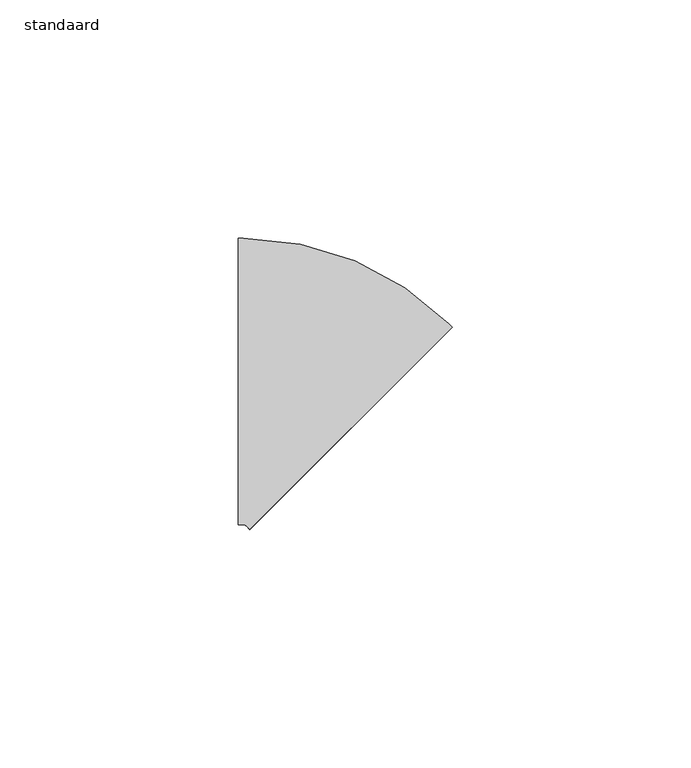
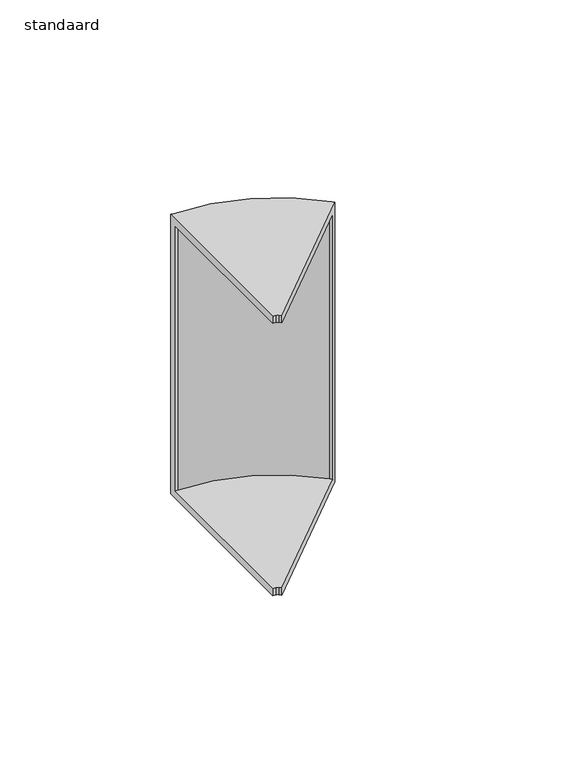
"""IFC4 building model written with IfcOpenShell, lengths in millimetres: cable carrier fitting geometry, AI_Raccord cdc_Coude montant : standaard."""

import ifcopenshell
import ifcopenshell.guid

model = None  # the IFC model being written
_history = None  # IfcOwnerHistory: only IFC2X3 demands one
_inside = {}  # id of a spatial element -> (the spatial element, [elements in it])
_under = {}  # id of a project, library or spatial element -> (it, [spatial elements below it])
_declared = {}  # id of a project -> (the project, [libraries it declares])
_typed = {}  # id of a type object -> (the type object, [elements of that type])
_made_of = {}  # id of a material, layer set ... -> (it, [elements and type objects made of it])


def new_model(schema):
    """Start an empty IFC model of exactly this schema.

    Asked for "IFC4X3", IfcOpenShell would pick the latest addendum, in which some entities
    have other attributes; the version numbers below select the first issue.
    IFC2X3 requires an IfcOwnerHistory on every rooted entity: one is made here for all.
    """
    global model, _history
    if schema == "IFC4X3":
        model = ifcopenshell.file(schema_version=(4, 3, 0, 0))
    else:
        model = ifcopenshell.file(schema=schema)
    _inside.clear()
    _under.clear()
    _declared.clear()
    _typed.clear()
    _made_of.clear()
    _history = None
    if model.schema == "IFC2X3":
        org = make("IfcOrganization", Name="unknown")
        user = make(
            "IfcPersonAndOrganization",
            ThePerson=make("IfcPerson", FamilyName="unknown"),
            TheOrganization=org,
        )
        app = make(
            "IfcApplication",
            ApplicationDeveloper=org,
            Version="unknown",
            ApplicationFullName="unknown",
            ApplicationIdentifier="unknown",
        )
        _history = make(
            "IfcOwnerHistory",
            OwningUser=user,
            OwningApplication=app,
            ChangeAction="ADDED",
            CreationDate=0,
        )
    return model


def make(cls, **values):
    """One entity of the class cls with the attributes given. An attribute that is None is left unset."""
    return model.create_entity(
        cls, **{name: value for name, value in values.items() if value is not None}
    )


def rooted(cls, **values):
    """An entity with a GlobalId (a new one), such as an element, a storey or a relation."""
    return make(cls, GlobalId=ifcopenshell.guid.new(), OwnerHistory=_history, **values)


def si_unit(unit_type, name, prefix=None):
    """IfcSIUnit, for example si_unit("LENGTHUNIT", "METRE", prefix="MILLI")."""
    return make("IfcSIUnit", UnitType=unit_type, Prefix=prefix, Name=name)


def assignment(units):
    """IfcUnitAssignment: the units of a project."""
    return None if units is None else make("IfcUnitAssignment", Units=units)


def point(xyz):
    """IfcCartesianPoint."""
    return None if xyz is None else make("IfcCartesianPoint", Coordinates=xyz)


def direction(xyz):
    """IfcDirection."""
    return None if xyz is None else make("IfcDirection", DirectionRatios=xyz)


def frame(location, z_axis=None, x_axis=None):
    """IfcAxis2Placement3D, a coordinate frame: its origin and axes. An axis left out is left unset."""
    return make(
        "IfcAxis2Placement3D",
        Location=point(location),
        Axis=direction(z_axis),
        RefDirection=direction(x_axis),
    )


def origin():
    """The frame at (0, 0, 0) with its axes left unset."""
    return frame((0.0, 0.0, 0.0))


def place(relative_to, where):
    """IfcLocalPlacement: puts the frame where relative to a parent placement (None: the world)."""
    return make(
        "IfcLocalPlacement", PlacementRelTo=relative_to, RelativePlacement=where
    )


def context(
    kind, dimensions, precision=None, world=None, true_north=None, identifier=None
):
    """IfcGeometricRepresentationContext, for example the 3D "Model" context."""
    return make(
        "IfcGeometricRepresentationContext",
        ContextIdentifier=identifier,
        ContextType=kind,
        CoordinateSpaceDimension=dimensions,
        Precision=precision,
        WorldCoordinateSystem=world,
        TrueNorth=true_north,
    )


def project(units=None, contexts=None):
    """IfcProject with its units and contexts."""
    return rooted(
        "IfcProject",
        Name="project",
        RepresentationContexts=contexts,
        UnitsInContext=assignment(units),
    )


def spatial(cls, under=None, at=None, **own):
    """A site, building, storey or space (cls), placed at a placement, below another one or the project."""
    s = rooted(cls, ObjectPlacement=at, **own)
    if under is not None:
        _under.setdefault(under.id(), (under, []))[1].append(s)
    return s


def polyline(points):
    """IfcPolyline through the points."""
    return make("IfcPolyline", Points=[point(p) for p in points])


def circle_curve(where, radius):
    """IfcCircle in the frame where."""
    return make("IfcCircle", Position=where, Radius=radius)


def shape(context_of_items, identifier, shape_type, items):
    """IfcShapeRepresentation: the items that make up one representation, for example the "Body"."""
    return make(
        "IfcShapeRepresentation",
        ContextOfItems=context_of_items,
        RepresentationIdentifier=identifier,
        RepresentationType=shape_type,
        Items=items,
    )


def source(mapping_origin, context_of_items, identifier, shape_type, items):
    """IfcRepresentationMap: a shape defined once, which mapped items show again and again."""
    return make(
        "IfcRepresentationMap",
        MappingOrigin=mapping_origin,
        MappedRepresentation=shape(context_of_items, identifier, shape_type, items),
    )


def transform(
    local_origin,
    x_axis=None,
    y_axis=None,
    z_axis=None,
    scale=None,
    scale2=None,
    scale3=None,
    uniform=True,
):
    """IfcCartesianTransformationOperator3D, or its non-uniform kind. x_axis, y_axis, z_axis: its Axis1, 2, 3."""
    if uniform:
        return make(
            "IfcCartesianTransformationOperator3D",
            Axis1=direction(x_axis),
            Axis2=direction(y_axis),
            LocalOrigin=point(local_origin),
            Scale=scale,
            Axis3=direction(z_axis),
        )
    return make(
        "IfcCartesianTransformationOperator3DnonUniform",
        Axis1=direction(x_axis),
        Axis2=direction(y_axis),
        LocalOrigin=point(local_origin),
        Scale=scale,
        Axis3=direction(z_axis),
        Scale2=scale2,
        Scale3=scale3,
    )


def mapped(mapping_source, mapping_target):
    """IfcMappedItem: shows the shape of a source again, moved by a transform."""
    return make(
        "IfcMappedItem", MappingSource=mapping_source, MappingTarget=mapping_target
    )


def made_of(thing, what):
    """Note that an element or type object is made of a material, layer set ...; save() writes the relation."""
    if what is not None:
        _made_of.setdefault(what.id(), (what, []))[1].append(thing)
    return thing


def element(
    cls,
    number,
    at=None,
    inside=None,
    cuts=None,
    type_object=None,
    material=None,
    context=None,
    identifier="Body",
    shape_type=None,
    held_by="IfcProductDefinitionShape",
    body=None,
    shapes=None,
    **own,
):
    """One element of the class cls, such as IfcWall. Its Tag is "e" and its number.

    at: its placement. inside: the storey or other place that contains it. cuts: it is an
    opening in that element (IfcRelVoidsElement). A single representation is given by context,
    identifier, shape_type and body (its items); several are given by shapes. held_by: the class
    of the entity that holds the representations. save() writes the other relations.
    """
    e = rooted(cls, Tag="e%d" % number, ObjectPlacement=at, **own)
    if body is not None:
        shapes = [shape(context, identifier, shape_type, body)]
    if shapes is not None:
        e.Representation = make(held_by, Representations=shapes)
    if inside is not None:
        _inside.setdefault(inside.id(), (inside, []))[1].append(e)
    if cuts is not None:
        rooted(
            "IfcRelVoidsElement", RelatingBuildingElement=cuts, RelatedOpeningElement=e
        )
    if type_object is not None:
        _typed.setdefault(type_object.id(), (type_object, []))[1].append(e)
    return made_of(e, material)


def aggregate(whole, parts):
    """IfcRelAggregates: a whole, such as a stair, and the parts it consists of."""
    return rooted("IfcRelAggregates", RelatingObject=whole, RelatedObjects=parts)


def save(model, path):
    """Write the relations noted so far, then the file.

    IfcRelAggregates (storeys below a building ...), IfcRelContainedInSpatialStructure (elements
    in a storey), IfcRelDefinesByType, IfcRelAssociatesMaterial and IfcRelDeclares: one each for
    every whole, place, type object, material and project.
    """
    for whole, parts in _under.values():
        aggregate(whole, parts)
    for where, things in _inside.values():
        rooted(
            "IfcRelContainedInSpatialStructure",
            RelatedElements=things,
            RelatingStructure=where,
        )
    for kind, things in _typed.values():
        rooted("IfcRelDefinesByType", RelatedObjects=things, RelatingType=kind)
    for what, things in _made_of.values():
        rooted("IfcRelAssociatesMaterial", RelatedObjects=things, RelatingMaterial=what)
    for by, libraries in _declared.values():
        rooted("IfcRelDeclares", RelatingContext=by, RelatedDefinitions=libraries)
    model.write(path)


def plane_surface(at):
    """IfcPlane: the flat surface through the origin of the frame at, square to its z axis."""
    return make("IfcPlane", Position=at)


def cylinder_surface(at, radius):
    """IfcCylindricalSurface: all points at the distance radius from the z axis of the frame at."""
    return make("IfcCylindricalSurface", Position=at, Radius=radius)


def revolved_surface(curve, axis_point, axis_direction):
    """IfcSurfaceOfRevolution: the curve turned about the line through axis_point along axis_direction."""
    return make(
        "IfcSurfaceOfRevolution",
        SweptCurve=make("IfcArbitraryOpenProfileDef", ProfileType="CURVE", Curve=curve),
        AxisPosition=make("IfcAxis1Placement", Location=point(axis_point), Axis=direction(axis_direction)),
    )


def advanced_brep(points, edges, surfaces, faces):
    """IfcAdvancedBrep: a solid bounded by faces that lie on surfaces and meet in shared edges.

    An edge is (start, end): straight between two places in points (the first is 0);
    or (start, end, curve); or (start, end, curve, False) where it runs against its curve.
    A face is (place in surfaces, loops), or (place, loops, False) where it looks against
    its surface's normal. A loop lists edges by number (the first is 1), with a minus sign
    where the edge is run from its end to its start. The first loop is the outer one.
    """
    corners = [point(p) for p in points]
    vertices = [make("IfcVertexPoint", VertexGeometry=c) for c in corners]
    made = []
    for start, end, *more in edges:
        made.append(
            make(
                "IfcEdgeCurve",
                EdgeStart=vertices[start],
                EdgeEnd=vertices[end],
                EdgeGeometry=more[0] if more else make("IfcPolyline", Points=[corners[start], corners[end]]),
                SameSense=more[1] if len(more) > 1 else True,
            )
        )
    hull = []
    for where, loops, *sense in faces:
        bounds = []
        for j, loop in enumerate(loops):
            ring = [make("IfcOrientedEdge", EdgeElement=made[abs(k) - 1], Orientation=k > 0) for k in loop]
            bounds.append(
                make(
                    "IfcFaceOuterBound" if j == 0 else "IfcFaceBound",
                    Bound=make("IfcEdgeLoop", EdgeList=ring),
                    Orientation=True,
                )
            )
        hull.append(make("IfcAdvancedFace", Bounds=bounds, FaceSurface=surfaces[where], SameSense=sense[0] if sense else True))
    return make("IfcAdvancedBrep", Outer=make("IfcClosedShell", CfsFaces=hull))


def standaard_6054fbdd(model_context):
    return source(origin(), model_context, "Body", "AdvancedBrep", [
        advanced_brep(
        [(-13.8406204, -30.0, 50.0), (-13.8406204, 30.0, 50.0), (-13.8406204, 30.0, -50.0), (-13.8406204, -30.0, -50.0), (-13.8406204, -30.0, -47.46), (-13.8406204, 27.46, -47.46), (-13.8406204, 27.46, 47.46), (-13.8406204, -30.0, 47.46), (-11.4264069, -31.0, 50.0), (-11.4264069, -31.0, 47.46), (29.2039488, 9.6303557, 47.46), (29.2039488, 9.6303557, -47.46), (-11.4264069, -31.0, -47.46), (-11.4264069, -31.0, -50.0), (31.0, 11.4264069, -50.0), (31.0, 11.4264069, 50.0), (-12.8406204, -30.0, 50.0), (-12.1335137, -30.2928932, 50.0), (30.2928932, 12.1335137, 50.0), (-12.8406204, 30.0, 50.0), (-12.8406204, 30.0, -50.0), (30.2928932, 12.1335137, -50.0), (-12.1335137, -30.2928932, -50.0), (-12.8406204, -30.0, -50.0), (-12.8406204, -30.0, -47.46), (-12.1335137, -30.2928932, -47.46), (28.496842, 10.3374624, -47.46), (-12.8406204, 27.46, -47.46), (-12.8406204, 27.46, 47.46), (28.496842, 10.3374624, 47.46), (-12.1335137, -30.2928932, 47.46), (-12.8406204, -30.0, 47.46)],
        [
            (0, 1),
            (1, 2),
            (2, 3),
            (3, 4),
            (4, 5),
            (5, 6),
            (6, 7),
            (7, 0),
            (8, 9),
            (9, 10),
            (10, 11),
            (11, 12),
            (12, 13),
            (13, 14),
            (14, 15),
            (15, 8),
            (0, 16),
            (16, 17, circle_curve(frame((-12.8406204, -31.0, 50.0), z_axis=(0.0, 0.0, -1.0), x_axis=(0.0, 1.0, 0.0)), 1.0)),
            (17, 8),
            (15, 18),
            (18, 19, circle_curve(frame((-12.8406204, -31.0, 50.0), z_axis=(0.0, 0.0, 1.0), x_axis=(0.0, 1.0, 0.0)), 61.0)),
            (19, 1),
            (19, 20),
            (20, 2),
            (20, 21, circle_curve(frame((-12.8406204, -31.0, -50.0), z_axis=(0.0, 0.0, -1.0), x_axis=(0.0, 1.0, 0.0)), 61.0)),
            (21, 14),
            (13, 22),
            (22, 23, circle_curve(frame((-12.8406204, -31.0, -50.0), z_axis=(0.0, 0.0, 1.0), x_axis=(0.0, 1.0, 0.0)), 1.0)),
            (23, 3),
            (23, 24),
            (24, 4),
            (24, 25, circle_curve(frame((-12.8406204, -31.0, -47.46), z_axis=(0.0, 0.0, -1.0), x_axis=(0.0, 1.0, 0.0)), 1.0)),
            (25, 12),
            (11, 26),
            (26, 27, circle_curve(frame((-12.8406204, -31.0, -47.46), z_axis=(0.0, 0.0, 1.0), x_axis=(0.0, 1.0, 0.0)), 58.46)),
            (27, 5),
            (27, 28),
            (28, 6),
            (28, 29, circle_curve(frame((-12.8406204, -31.0, 47.46), z_axis=(0.0, 0.0, -1.0), x_axis=(0.0, 1.0, 0.0)), 58.46)),
            (29, 10),
            (9, 30),
            (30, 31, circle_curve(frame((-12.8406204, -31.0, 47.46), z_axis=(0.0, 0.0, 1.0), x_axis=(0.0, 1.0, 0.0)), 1.0)),
            (31, 7),
            (31, 16),
            (18, 21),
            (22, 25),
            (26, 29),
            (30, 17),
        ],
        [
            plane_surface(frame((-13.8406204, 0.0, 0.0), z_axis=(-1.0, 4.915201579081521e-12, 0.0), x_axis=(0.0, 0.0, 1.0))),
            plane_surface(frame((9.7867966, -9.7867966, 0.0), z_axis=(0.7071067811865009, -0.7071067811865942, 0.0), x_axis=(0.0, 0.0, 1.0))),
            plane_surface(frame((-13.8406204, 30.0, 50.0), z_axis=(0.0, 0.0, 1.0), x_axis=(1.0, -4.906741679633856e-12, 0.0))),
            plane_surface(frame((-13.8406204, 30.0, -50.0), z_axis=(4.906741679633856e-12, 1.0, 0.0), x_axis=(1.0, -4.906741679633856e-12, 0.0))),
            plane_surface(frame((-13.8406204, -30.0, -50.0), z_axis=(0.0, 0.0, -1.0), x_axis=(1.0, -4.91520157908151e-12, 0.0))),
            plane_surface(frame((-13.8406204, -30.0, -47.46), z_axis=(-4.91520157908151e-12, -1.0, 0.0), x_axis=(1.0, -4.91520157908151e-12, 0.0))),
            plane_surface(frame((-13.8406204, 27.46, -47.46), z_axis=(0.0, 0.0, 1.0), x_axis=(1.0, -4.9152015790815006e-12, 0.0))),
            plane_surface(frame((-13.8406204, 27.46, 47.46), z_axis=(-4.9152015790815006e-12, -1.0, 0.0), x_axis=(1.0, -4.9152015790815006e-12, 0.0))),
            plane_surface(frame((-13.8406204, -30.0, 47.46), z_axis=(0.0, 0.0, -1.0), x_axis=(1.0, -4.91520157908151e-12, 0.0))),
            plane_surface(frame((-13.8406204, -30.0, 50.0), z_axis=(-4.91520157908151e-12, -1.0, 0.0), x_axis=(1.0, -4.91520157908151e-12, 0.0))),
            cylinder_surface(frame((-12.8406204, -31.0, 0.0), z_axis=(0.0, 0.0, 1.0), x_axis=(0.0, 1.0, 0.0)), 61.0),
            revolved_surface(polyline([(-12.8406204, -30.0, -47.46), (-12.8406204, -30.0, -50.0)]), (-12.8406204, -31.0, 0.0), (0.0, 0.0, 1.0)),
            revolved_surface(polyline([(-12.8406204, 27.46, 47.46), (-12.8406204, 27.46, -47.46)]), (-12.8406204, -31.0, 0.0), (0.0, 0.0, 1.0)),
            revolved_surface(polyline([(-12.8406204, -30.0, 50.0), (-12.8406204, -30.0, 47.46)]), (-12.8406204, -31.0, 0.0), (0.0, 0.0, 1.0)),
            plane_surface(frame((30.2928932, 12.1335137, -50.0), z_axis=(0.7071067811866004, 0.7071067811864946, 0.0), x_axis=(0.7071067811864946, -0.7071067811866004, 0.0))),
            plane_surface(frame((-12.1335137, -30.2928932, -47.46), z_axis=(-0.7071067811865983, -0.7071067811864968, 0.0), x_axis=(0.7071067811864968, -0.7071067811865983, 0.0))),
            plane_surface(frame((28.496842, 10.3374624, 47.46), z_axis=(-0.7071067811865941, -0.707106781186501, 0.0), x_axis=(0.707106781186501, -0.7071067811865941, 0.0))),
            plane_surface(frame((-12.1335137, -30.2928932, 50.0), z_axis=(-0.7071067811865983, -0.7071067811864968, 0.0), x_axis=(0.7071067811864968, -0.7071067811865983, 0.0))),
        ],
        [
            (0, [[1, 2, 3, 4, 5, 6, 7, 8]]),
            (1, [[9, 10, 11, 12, 13, 14, 15, 16]]),
            (2, [[17, 18, 19, -16, 20, 21, 22, -1]]),
            (3, [[-22, 23, 24, -2]]),
            (4, [[-24, 25, 26, -14, 27, 28, 29, -3]]),
            (5, [[-29, 30, 31, -4]]),
            (6, [[-31, 32, 33, -12, 34, 35, 36, -5]]),
            (7, [[-36, 37, 38, -6]]),
            (8, [[-38, 39, 40, -10, 41, 42, 43, -7]]),
            (9, [[-43, 44, -17, -8]]),
            (10, [[45, -25, -23, -21]]),
            (11, [[46, -32, -30, -28]]),
            (12, [[47, -39, -37, -35]]),
            (13, [[48, -18, -44, -42]]),
            (14, [[-20, -15, -26, -45]]),
            (15, [[-27, -13, -33, -46]]),
            (16, [[-34, -11, -40, -47]]),
            (17, [[-41, -9, -19, -48]]),
        ],
    ),
    ])


if __name__ == "__main__":
    model = new_model("IFC4")
    model_context = context("Model", 3, world=origin())
    ifc_project = project(units=[si_unit("LENGTHUNIT", "METRE", prefix="MILLI")], contexts=[model_context])
    site = spatial("IfcSite", under=ifc_project)
    building = spatial("IfcBuilding", under=site)
    placement = place(None, origin())
    standaard_shape = standaard_6054fbdd(model_context)
    element("IfcCableCarrierFitting", 1, ObjectType="AI_Raccord cdc_Coude montant : standaard", at=placement, inside=building, context=model_context, shape_type="MappedRepresentation", body=[
        mapped(standaard_shape, transform((0.0, 0.0, 0.0), x_axis=(1.0, 0.0, 0.0), y_axis=(0.0, 1.0, 0.0), z_axis=(0.0, 0.0, 1.0))),
    ])
    save(model, "model.ifc")
